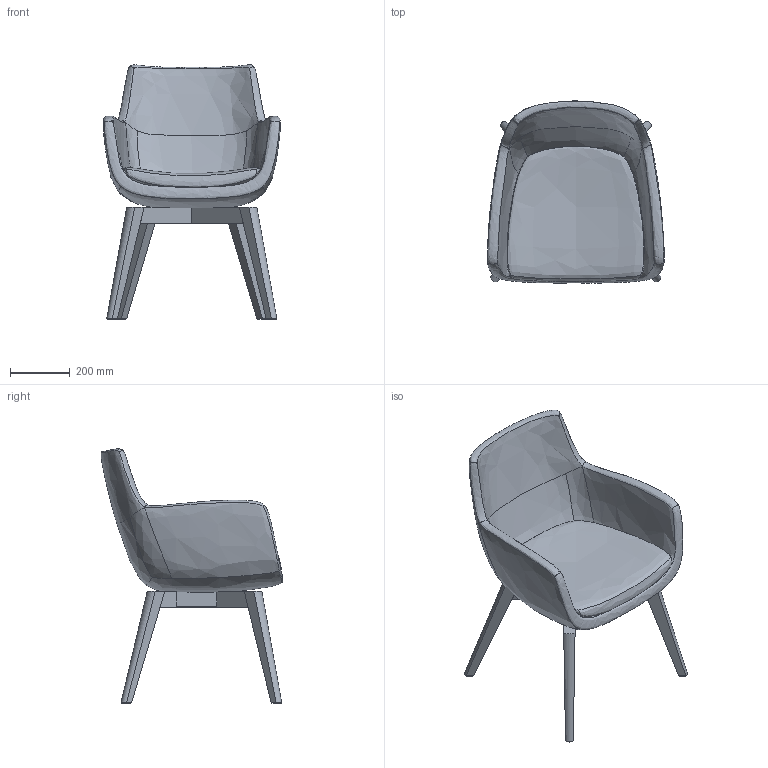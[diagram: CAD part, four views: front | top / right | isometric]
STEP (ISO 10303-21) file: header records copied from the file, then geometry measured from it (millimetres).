
FILE_DESCRIPTION(/* description */ (''),/* implementation_level */ '2;1');
FILE_NAME(/* name */ 'Tania TA 860-06',/* time_stamp */ '2021-04-08T13:33:03+02:00',/* author */ (''),/* organization */ (''),/* preprocessor_version */ 'ST-DEVELOPER v16.5',/* originating_system */ '',/* authorisation */ '');
FILE_SCHEMA (('CONFIG_CONTROL_DESIGN'));
Length unit declared in the file: millimetre
Products named in the file (1): Document
Bounding box: 592.29 x 608.64 x 850.5 mm (x, y, z)
Volume: 13482188.5 mm3; surface area: 2132333.2 mm2
Topology: 8 solids, 12 shells, 95 faces, 208 edges, 135 vertices
Faces by surface type: bspline 58, plane 35, cylinder 2
Entity records: 9931 total; most frequent: CARTESIAN_POINT 8505, ORIENTED_EDGE 391, EDGE_CURVE 205, B_SPLINE_CURVE_WITH_KNOTS 146, VERTEX_POINT 129, EDGE_LOOP 96, ADVANCED_FACE 95, FACE_OUTER_BOUND 95
